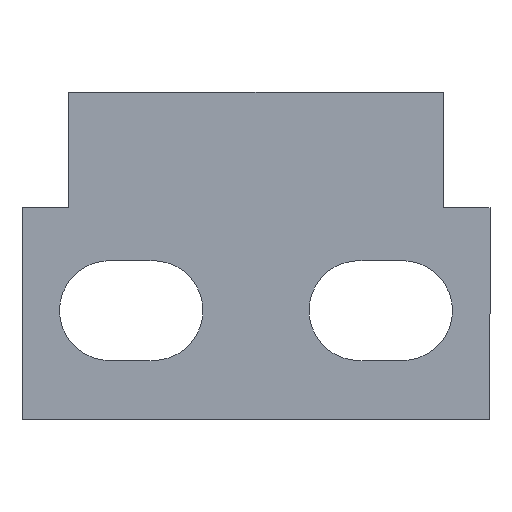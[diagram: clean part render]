
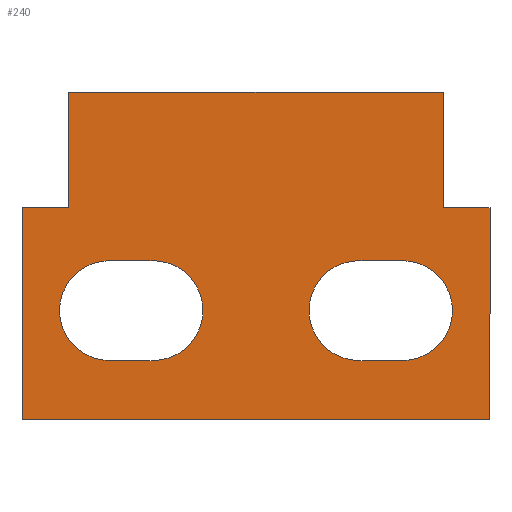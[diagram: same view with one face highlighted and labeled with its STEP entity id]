
A CAD part, front view. The second image highlights one B-rep face of the part: STEP entity #240.
In plain terms, the highlighted planar face has unit normal (0, -1, 0).
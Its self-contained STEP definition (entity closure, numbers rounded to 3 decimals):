
#113 = EDGE_LOOP ( 'NONE', ( #205, #192, #196, #167, #206, #163, #207, #217 ) ) ;
#115 = VERTEX_POINT ( 'NONE', #593 ) ;
#119 = VERTEX_POINT ( 'NONE', #573 ) ;
#129 = VERTEX_POINT ( 'NONE', #490 ) ;
#135 = ORIENTED_EDGE ( 'NONE', *, *, #238, .T. ) ;
#136 = EDGE_CURVE ( 'NONE', #119, #257, #489, .T. ) ;
#137 = VERTEX_POINT ( 'NONE', #544 ) ;
#140 = EDGE_CURVE ( 'NONE', #115, #129, #549, .T. ) ;
#141 = ORIENTED_EDGE ( 'NONE', *, *, #136, .T. ) ;
#163 = ORIENTED_EDGE ( 'NONE', *, *, #208, .F. ) ;
#167 = ORIENTED_EDGE ( 'NONE', *, *, #185, .F. ) ;
#168 = VERTEX_POINT ( 'NONE', #612 ) ;
#169 = VERTEX_POINT ( 'NONE', #707 ) ;
#170 = EDGE_CURVE ( 'NONE', #171, #168, #625, .T. ) ;
#171 = VERTEX_POINT ( 'NONE', #636 ) ;
#172 = VERTEX_POINT ( 'NONE', #680 ) ;
#173 = ORIENTED_EDGE ( 'NONE', *, *, #170, .T. ) ;
#176 = EDGE_CURVE ( 'NONE', #188, #169, #679, .T. ) ;
#184 = EDGE_CURVE ( 'NONE', #115, #209, #703, .T. ) ;
#185 = EDGE_CURVE ( 'NONE', #218, #187, #648, .T. ) ;
#187 = VERTEX_POINT ( 'NONE', #687 ) ;
#188 = VERTEX_POINT ( 'NONE', #650 ) ;
#190 = EDGE_CURVE ( 'NONE', #169, #171, #677, .T. ) ;
#191 = VERTEX_POINT ( 'NONE', #656 ) ;
#192 = ORIENTED_EDGE ( 'NONE', *, *, #195, .F. ) ;
#193 = EDGE_CURVE ( 'NONE', #168, #188, #669, .T. ) ;
#194 = VERTEX_POINT ( 'NONE', #666 ) ;
#195 = EDGE_CURVE ( 'NONE', #191, #194, #696, .T. ) ;
#196 = ORIENTED_EDGE ( 'NONE', *, *, #211, .F. ) ;
#197 = ORIENTED_EDGE ( 'NONE', *, *, #193, .T. ) ;
#205 = ORIENTED_EDGE ( 'NONE', *, *, #220, .F. ) ;
#206 = ORIENTED_EDGE ( 'NONE', *, *, #216, .F. ) ;
#207 = ORIENTED_EDGE ( 'NONE', *, *, #184, .F. ) ;
#208 = EDGE_CURVE ( 'NONE', #209, #172, #824, .T. ) ;
#209 = VERTEX_POINT ( 'NONE', #748 ) ;
#211 = EDGE_CURVE ( 'NONE', #187, #191, #797, .T. ) ;
#216 = EDGE_CURVE ( 'NONE', #172, #218, #888, .T. ) ;
#217 = ORIENTED_EDGE ( 'NONE', *, *, #140, .T. ) ;
#218 = VERTEX_POINT ( 'NONE', #749 ) ;
#219 = ORIENTED_EDGE ( 'NONE', *, *, #190, .T. ) ;
#220 = EDGE_CURVE ( 'NONE', #194, #129, #753, .T. ) ;
#233 = ORIENTED_EDGE ( 'NONE', *, *, #235, .T. ) ;
#234 = EDGE_CURVE ( 'NONE', #241, #137, #713, .T. ) ;
#235 = EDGE_CURVE ( 'NONE', #257, #241, #718, .T. ) ;
#236 = EDGE_LOOP ( 'NONE', ( #135, #141, #233, #252 ) ) ;
#238 = EDGE_CURVE ( 'NONE', #137, #119, #840, .T. ) ;
#239 = EDGE_LOOP ( 'NONE', ( #269, #219, #173, #197 ) ) ;
#240 = ADVANCED_FACE ( 'NONE', ( #869, #844, #838 ), #826, .T. ) ;
#241 = VERTEX_POINT ( 'NONE', #868 ) ;
#252 = ORIENTED_EDGE ( 'NONE', *, *, #234, .T. ) ;
#257 = VERTEX_POINT ( 'NONE', #732 ) ;
#269 = ORIENTED_EDGE ( 'NONE', *, *, #176, .T. ) ;
#486 = DIRECTION ( 'NONE',  ( -1., 0., 0. ) ) ;
#487 = VECTOR ( 'NONE', #486, 1000. ) ;
#488 = CARTESIAN_POINT ( 'NONE',  ( -3.3, 0., -8.6 ) ) ;
#489 = LINE ( 'NONE', #488, #487 ) ;
#490 = CARTESIAN_POINT ( 'NONE',  ( 6., 0., 0. ) ) ;
#511 = DIRECTION ( 'NONE',  ( 0., 0., 1. ) ) ;
#512 = VECTOR ( 'NONE', #511, 1000. ) ;
#513 = CARTESIAN_POINT ( 'NONE',  ( 6., 0., -1.2 ) ) ;
#544 = CARTESIAN_POINT ( 'NONE',  ( -3.3, 0., -5.4 ) ) ;
#549 = LINE ( 'NONE', #513, #512 ) ;
#573 = CARTESIAN_POINT ( 'NONE',  ( -3.3, 0., -8.6 ) ) ;
#593 = CARTESIAN_POINT ( 'NONE',  ( 6., 0., -3.7 ) ) ;
#612 = CARTESIAN_POINT ( 'NONE',  ( 4.7, 0., -8.6 ) ) ;
#616 = DIRECTION ( 'NONE',  ( 0., 0., 1. ) ) ;
#617 = DIRECTION ( 'NONE',  ( 0., 1., 0. ) ) ;
#619 = DIRECTION ( 'NONE',  ( 0., 1., 0. ) ) ;
#625 = CIRCLE ( 'NONE', #635, 1.6 ) ;
#634 = CARTESIAN_POINT ( 'NONE',  ( 4.7, 0., -7. ) ) ;
#635 = AXIS2_PLACEMENT_3D ( 'NONE', #634, #617, #616 ) ;
#636 = CARTESIAN_POINT ( 'NONE',  ( 4.7, 0., -5.4 ) ) ;
#645 = CARTESIAN_POINT ( 'NONE',  ( 3.3, 0., -7. ) ) ;
#647 = CARTESIAN_POINT ( 'NONE',  ( -7.5, 0., -10.5 ) ) ;
#648 = LINE ( 'NONE', #647, #659 ) ;
#649 = DIRECTION ( 'NONE',  ( 1., 0., 0. ) ) ;
#650 = CARTESIAN_POINT ( 'NONE',  ( 3.3, 0., -8.6 ) ) ;
#656 = CARTESIAN_POINT ( 'NONE',  ( -6., 0., -3.7 ) ) ;
#658 = DIRECTION ( 'NONE',  ( 0., 0., 1. ) ) ;
#659 = VECTOR ( 'NONE', #658, 1000. ) ;
#663 = VECTOR ( 'NONE', #649, 1000. ) ;
#666 = CARTESIAN_POINT ( 'NONE',  ( -6., 0., 0. ) ) ;
#669 = LINE ( 'NONE', #671, #700 ) ;
#670 = DIRECTION ( 'NONE',  ( -1., 0., 0. ) ) ;
#671 = CARTESIAN_POINT ( 'NONE',  ( 3.3, 0., -8.6 ) ) ;
#673 = DIRECTION ( 'NONE',  ( 1., 0., 0. ) ) ;
#674 = VECTOR ( 'NONE', #673, 1000. ) ;
#675 = CARTESIAN_POINT ( 'NONE',  ( 4.7, 0., -5.4 ) ) ;
#677 = LINE ( 'NONE', #675, #674 ) ;
#679 = CIRCLE ( 'NONE', #701, 1.6 ) ;
#680 = CARTESIAN_POINT ( 'NONE',  ( 7.5, 0., -10.5 ) ) ;
#687 = CARTESIAN_POINT ( 'NONE',  ( -7.5, 0., -3.7 ) ) ;
#688 = DIRECTION ( 'NONE',  ( 0., 0., 1. ) ) ;
#693 = DIRECTION ( 'NONE',  ( 0., 0., 1. ) ) ;
#694 = VECTOR ( 'NONE', #693, 1000. ) ;
#695 = CARTESIAN_POINT ( 'NONE',  ( -6., 0., -1.2 ) ) ;
#696 = LINE ( 'NONE', #695, #694 ) ;
#700 = VECTOR ( 'NONE', #670, 1000. ) ;
#701 = AXIS2_PLACEMENT_3D ( 'NONE', #645, #619, #688 ) ;
#702 = CARTESIAN_POINT ( 'NONE',  ( 7.5, 0., -3.7 ) ) ;
#703 = LINE ( 'NONE', #702, #663 ) ;
#707 = CARTESIAN_POINT ( 'NONE',  ( 3.3, 0., -5.4 ) ) ;
#712 = CARTESIAN_POINT ( 'NONE',  ( -4.7, 0., -5.4 ) ) ;
#713 = LINE ( 'NONE', #712, #842 ) ;
#718 = CIRCLE ( 'NONE', #825, 1.6 ) ;
#732 = CARTESIAN_POINT ( 'NONE',  ( -4.7, 0., -8.6 ) ) ;
#748 = CARTESIAN_POINT ( 'NONE',  ( 7.5, 0., -3.7 ) ) ;
#749 = CARTESIAN_POINT ( 'NONE',  ( -7.5, 0., -10.5 ) ) ;
#750 = DIRECTION ( 'NONE',  ( -1., 0., 0. ) ) ;
#751 = VECTOR ( 'NONE', #827, 1000. ) ;
#752 = CARTESIAN_POINT ( 'NONE',  ( -6., 0., 0. ) ) ;
#753 = LINE ( 'NONE', #752, #751 ) ;
#754 = DIRECTION ( 'NONE',  ( 0., 0., -1. ) ) ;
#755 = AXIS2_PLACEMENT_3D ( 'NONE', #837, #887, #754 ) ;
#756 = DIRECTION ( 'NONE',  ( 0., -1., 0. ) ) ;
#757 = CARTESIAN_POINT ( 'NONE',  ( -6., 0., -1.2 ) ) ;
#758 = DIRECTION ( 'NONE',  ( 0., 0., -1. ) ) ;
#759 = DIRECTION ( 'NONE',  ( 0., 1., 0. ) ) ;
#769 = VECTOR ( 'NONE', #834, 1000. ) ;
#797 = LINE ( 'NONE', #800, #799 ) ;
#798 = DIRECTION ( 'NONE',  ( 1., 0., 0. ) ) ;
#799 = VECTOR ( 'NONE', #798, 1000. ) ;
#800 = CARTESIAN_POINT ( 'NONE',  ( -7.5, 0., -3.7 ) ) ;
#823 = DIRECTION ( 'NONE',  ( 0., 0., -1. ) ) ;
#824 = LINE ( 'NONE', #835, #769 ) ;
#825 = AXIS2_PLACEMENT_3D ( 'NONE', #843, #759, #758 ) ;
#826 = PLANE ( 'NONE',  #839 ) ;
#827 = DIRECTION ( 'NONE',  ( 1., 0., 0. ) ) ;
#834 = DIRECTION ( 'NONE',  ( 0., 0., -1. ) ) ;
#835 = CARTESIAN_POINT ( 'NONE',  ( 7.5, 0., -10.5 ) ) ;
#837 = CARTESIAN_POINT ( 'NONE',  ( -3.3, 0., -7. ) ) ;
#838 = FACE_OUTER_BOUND ( 'NONE', #113, .T. ) ;
#839 = AXIS2_PLACEMENT_3D ( 'NONE', #757, #756, #823 ) ;
#840 = CIRCLE ( 'NONE', #755, 1.6 ) ;
#841 = DIRECTION ( 'NONE',  ( 1., 0., 0. ) ) ;
#842 = VECTOR ( 'NONE', #841, 1000. ) ;
#843 = CARTESIAN_POINT ( 'NONE',  ( -4.7, 0., -7. ) ) ;
#844 = FACE_BOUND ( 'NONE', #239, .T. ) ;
#868 = CARTESIAN_POINT ( 'NONE',  ( -4.7, 0., -5.4 ) ) ;
#869 = FACE_BOUND ( 'NONE', #236, .T. ) ;
#885 = VECTOR ( 'NONE', #750, 1000. ) ;
#886 = CARTESIAN_POINT ( 'NONE',  ( -7.5, 0., -10.5 ) ) ;
#887 = DIRECTION ( 'NONE',  ( 0., 1., 0. ) ) ;
#888 = LINE ( 'NONE', #886, #885 ) ;
